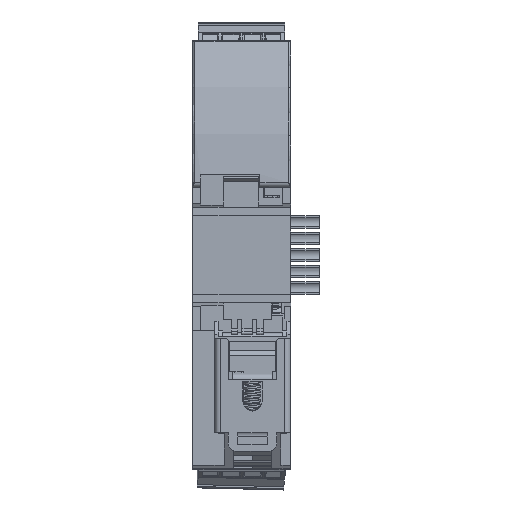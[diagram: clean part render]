
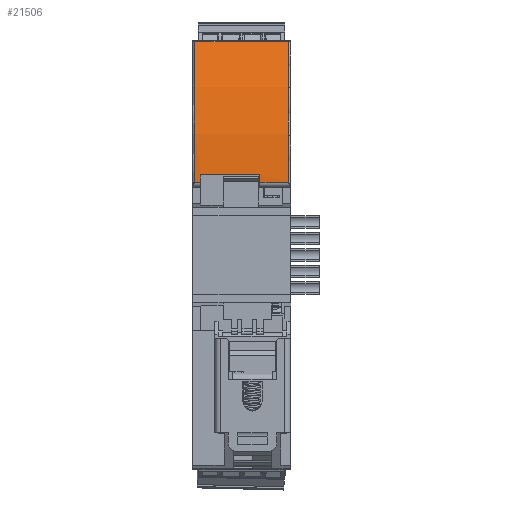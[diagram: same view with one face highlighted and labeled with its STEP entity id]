
A CAD part, front view. The second image highlights one B-rep face of the part: STEP entity #21506.
In plain terms, the highlighted cylindrical face has radius 80 mm (diameter 160 mm), a partial arc.
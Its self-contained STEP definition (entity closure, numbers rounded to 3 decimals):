
#21506=ADVANCED_FACE('',(#66911),#66913,.T.);
#66911=FACE_BOUND('',#66912,.T.);
#66912=EDGE_LOOP('',(#124318,#124319,#124320,#124321,#124322,#124323,#124324,#124325));
#66913=CYLINDRICAL_SURFACE('',#66914,80.);
#66914=AXIS2_PLACEMENT_3D('',#66915,#66916,#66917);
#66915=CARTESIAN_POINT('',(-0.85,75.75,13.5));
#66916=DIRECTION('',(1.,0.,0.));
#66917=DIRECTION('',(0.,0.,-1.));
#124318=ORIENTED_EDGE('',*,*,#155724,.F.);
#124319=ORIENTED_EDGE('',*,*,#155731,.T.);
#124320=ORIENTED_EDGE('',*,*,#155732,.F.);
#124321=ORIENTED_EDGE('',*,*,#154322,.F.);
#124322=ORIENTED_EDGE('',*,*,#154319,.T.);
#124323=ORIENTED_EDGE('',*,*,#155733,.T.);
#124324=ORIENTED_EDGE('',*,*,#153964,.T.);
#124325=ORIENTED_EDGE('',*,*,#153962,.T.);
#153962=EDGE_CURVE('',#179489,#179487,#179490,.T.);
#153964=EDGE_CURVE('',#179492,#179489,#179493,.T.);
#154319=EDGE_CURVE('',#180112,#180113,#180114,.T.);
#154322=EDGE_CURVE('',#180112,#180117,#180118,.T.);
#155724=EDGE_CURVE('',#182762,#179487,#182764,.T.);
#155731=EDGE_CURVE('',#182762,#182776,#182777,.T.);
#155732=EDGE_CURVE('',#180117,#182776,#182778,.T.);
#155733=EDGE_CURVE('',#180113,#179492,#182779,.T.);
#179487=VERTEX_POINT('',#224243);
#179489=VERTEX_POINT('',#224248);
#179490=LINE('',#224249,#224250);
#179492=VERTEX_POINT('',#224321);
#179493=CIRCLE('',#224322,80.);
#180112=VERTEX_POINT('',#225947);
#180113=VERTEX_POINT('',#225948);
#180114=CIRCLE('',#225949,80.);
#180117=VERTEX_POINT('',#226039);
#180118=LINE('',#226040,#226041);
#182762=VERTEX_POINT('',#232039);
#182764=CIRCLE('',#232043,80.);
#182776=VERTEX_POINT('',#232070);
#182777=LINE('',#232071,#232072);
#182778=CIRCLE('',#232074,80.);
#182779=LINE('',#232078,#232079);
#224243=CARTESIAN_POINT('',(-9.45,-4.184,16.741));
#224248=CARTESIAN_POINT('',(-10.85,-4.184,16.741));
#224249=CARTESIAN_POINT('',(-10.85,-4.184,16.741));
#224250=VECTOR('',#224251,1.);
#224251=DIRECTION('',(1.,0.,0.));
#224321=CARTESIAN_POINT('',(-10.85,4.169,49.223));
#224322=AXIS2_PLACEMENT_3D('',#224323,#224324,#224325);
#224323=CARTESIAN_POINT('',(-10.85,75.75,13.5));
#224324=DIRECTION('',(1.,0.,0.));
#224325=DIRECTION('',(0.,-0.895,0.447));
#225947=CARTESIAN_POINT('',(10.75,-4.184,16.741));
#225948=CARTESIAN_POINT('',(10.75,4.169,49.223));
#225949=AXIS2_PLACEMENT_3D('',#225950,#225951,#225952);
#225950=CARTESIAN_POINT('',(10.75,75.75,13.5));
#225951=DIRECTION('',(-1.,0.,0.));
#225952=DIRECTION('',(0.,-0.999,0.041));
#226039=CARTESIAN_POINT('',(4.15,-4.184,16.741));
#226040=CARTESIAN_POINT('',(10.75,-4.184,16.741));
#226041=VECTOR('',#226042,1.);
#226042=DIRECTION('',(-1.,0.,0.));
#232039=CARTESIAN_POINT('',(-9.45,-4.081,18.7));
#232043=AXIS2_PLACEMENT_3D('',#232044,#232045,#232046);
#232044=CARTESIAN_POINT('',(-9.45,75.75,13.5));
#232045=DIRECTION('',(1.,0.,0.));
#232046=DIRECTION('',(0.,-0.998,0.065));
#232070=CARTESIAN_POINT('',(4.15,-4.081,18.7));
#232071=CARTESIAN_POINT('',(-9.45,-4.081,18.7));
#232072=VECTOR('',#232073,1.);
#232073=DIRECTION('',(1.,0.,0.));
#232074=AXIS2_PLACEMENT_3D('',#232075,#232076,#232077);
#232075=CARTESIAN_POINT('',(4.15,75.75,13.5));
#232076=DIRECTION('',(-1.,0.,0.));
#232077=DIRECTION('',(0.,-0.999,0.041));
#232078=CARTESIAN_POINT('',(10.75,4.169,49.223));
#232079=VECTOR('',#232080,1.);
#232080=DIRECTION('',(-1.,0.,0.));
